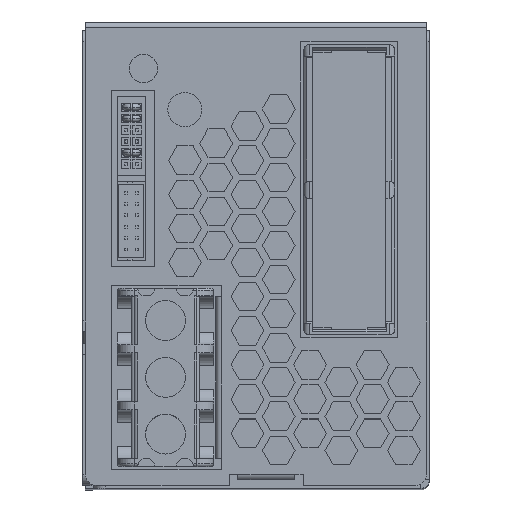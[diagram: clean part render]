
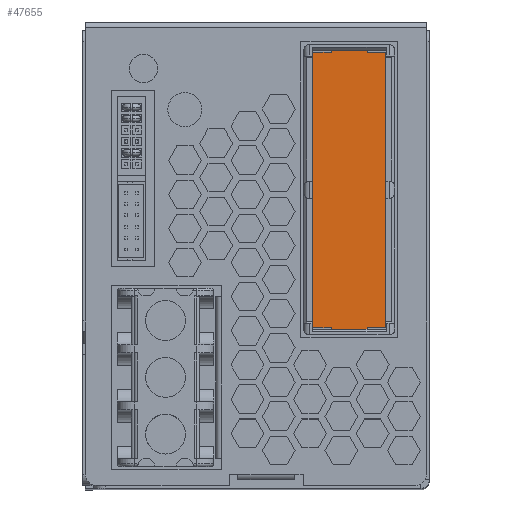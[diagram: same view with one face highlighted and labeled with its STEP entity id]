
A CAD part, top view. The second image highlights one B-rep face of the part: STEP entity #47655.
In plain terms, the highlighted planar face has unit normal (0, 0, 1).
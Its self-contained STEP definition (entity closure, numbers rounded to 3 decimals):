
#767 = DIRECTION ( 'NONE',  ( 1., 0., 0. ) ) ;
#769 = VECTOR ( 'NONE', #767, 1000. ) ;
#771 = CARTESIAN_POINT ( 'NONE',  ( 50.1, 26.953, 19. ) ) ;
#773 = LINE ( 'NONE', #771, #769 ) ;
#840 = DIRECTION ( 'NONE',  ( 1., 0., 0. ) ) ;
#842 = VECTOR ( 'NONE', #840, 1000. ) ;
#844 = CARTESIAN_POINT ( 'NONE',  ( 43.7, 28.253, 19. ) ) ;
#846 = LINE ( 'NONE', #844, #842 ) ;
#854 = CARTESIAN_POINT ( 'NONE',  ( 43.7, 28.253, 19. ) ) ;
#1045 = FACE_OUTER_BOUND ( 'NONE', #47646, .T. ) ;
#1058 = CARTESIAN_POINT ( 'NONE',  ( 43.7, 26.953, 19. ) ) ;
#1117 = DIRECTION ( 'NONE',  ( -1., 0., 0. ) ) ;
#1119 = DIRECTION ( 'NONE',  ( 0., 0., -1. ) ) ;
#1121 = CARTESIAN_POINT ( 'NONE',  ( 50.1, 26.953, 19. ) ) ;
#1123 = AXIS2_PLACEMENT_3D ( 'NONE', #1121, #1119, #1117 ) ;
#1130 = PLANE ( 'NONE',  #1123 ) ;
#1154 = DIRECTION ( 'NONE',  ( 0., -1., 0. ) ) ;
#1155 = VECTOR ( 'NONE', #1154, 1000. ) ;
#1157 = CARTESIAN_POINT ( 'NONE',  ( 43.7, 26.953, 19. ) ) ;
#1159 = LINE ( 'NONE', #1157, #1155 ) ;
#6792 = CARTESIAN_POINT ( 'NONE',  ( 50.1, 26.953, 19. ) ) ;
#6793 = DIRECTION ( 'NONE',  ( 0., 1., 0. ) ) ;
#6794 = VECTOR ( 'NONE', #6793, 1000. ) ;
#6795 = CARTESIAN_POINT ( 'NONE',  ( 50.1, 28.253, 19. ) ) ;
#6797 = LINE ( 'NONE', #6795, #6794 ) ;
#6810 = CARTESIAN_POINT ( 'NONE',  ( 50.1, 28.253, 19. ) ) ;
#7139 = DIRECTION ( 'NONE',  ( -1., 0., 0. ) ) ;
#7140 = VECTOR ( 'NONE', #7139, 1000. ) ;
#7141 = CARTESIAN_POINT ( 'NONE',  ( 50.1, 76.653, 19. ) ) ;
#7143 = LINE ( 'NONE', #7141, #7140 ) ;
#7150 = CARTESIAN_POINT ( 'NONE',  ( 50.1, 76.653, 19. ) ) ;
#7200 = DIRECTION ( 'NONE',  ( 1., 0., 0. ) ) ;
#7201 = VECTOR ( 'NONE', #7200, 1000. ) ;
#7203 = CARTESIAN_POINT ( 'NONE',  ( 50.1, 28.253, 19. ) ) ;
#7204 = LINE ( 'NONE', #7203, #7201 ) ;
#7212 = CARTESIAN_POINT ( 'NONE',  ( 53.3, 28.253, 19. ) ) ;
#7246 = DIRECTION ( 'NONE',  ( 0., 1., 0. ) ) ;
#7247 = VECTOR ( 'NONE', #7246, 1000. ) ;
#7248 = CARTESIAN_POINT ( 'NONE',  ( 53.3, 28.253, 19. ) ) ;
#7249 = LINE ( 'NONE', #7248, #7247 ) ;
#7252 = CARTESIAN_POINT ( 'NONE',  ( 53.3, 76.653, 19. ) ) ;
#7443 = DIRECTION ( 'NONE',  ( 0., -1., 0. ) ) ;
#7444 = VECTOR ( 'NONE', #7443, 1000. ) ;
#7445 = CARTESIAN_POINT ( 'NONE',  ( 43.7, 76.653, 19. ) ) ;
#7446 = LINE ( 'NONE', #7445, #7444 ) ;
#7469 = DIRECTION ( 'NONE',  ( -1., 0., 0. ) ) ;
#7470 = VECTOR ( 'NONE', #7469, 1000. ) ;
#7471 = CARTESIAN_POINT ( 'NONE',  ( 43.7, 77.953, 19. ) ) ;
#7472 = LINE ( 'NONE', #7471, #7470 ) ;
#7475 = CARTESIAN_POINT ( 'NONE',  ( 43.7, 77.953, 19. ) ) ;
#7487 = DIRECTION ( 'NONE',  ( -1., 0., 0. ) ) ;
#7489 = VECTOR ( 'NONE', #7487, 1000. ) ;
#7491 = CARTESIAN_POINT ( 'NONE',  ( 40.5, 76.653, 19. ) ) ;
#7493 = LINE ( 'NONE', #7491, #7489 ) ;
#7499 = CARTESIAN_POINT ( 'NONE',  ( 40.5, 76.653, 19. ) ) ;
#7523 = CARTESIAN_POINT ( 'NONE',  ( 43.7, 76.653, 19. ) ) ;
#7601 = DIRECTION ( 'NONE',  ( 0., 1., 0. ) ) ;
#7603 = VECTOR ( 'NONE', #7601, 1000. ) ;
#7604 = CARTESIAN_POINT ( 'NONE',  ( 50.1, 77.953, 19. ) ) ;
#7606 = LINE ( 'NONE', #7604, #7603 ) ;
#7612 = CARTESIAN_POINT ( 'NONE',  ( 50.1, 77.953, 19. ) ) ;
#7888 = DIRECTION ( 'NONE',  ( 0., -1., 0. ) ) ;
#7890 = VECTOR ( 'NONE', #7888, 1000. ) ;
#7891 = CARTESIAN_POINT ( 'NONE',  ( 40.5, 28.253, 19. ) ) ;
#7892 = LINE ( 'NONE', #7891, #7890 ) ;
#7894 = CARTESIAN_POINT ( 'NONE',  ( 40.5, 28.253, 19. ) ) ;
#47523 = ORIENTED_EDGE ( 'NONE', *, *, #47579, .T. ) ;
#47563 = ORIENTED_EDGE ( 'NONE', *, *, #49006, .T. ) ;
#47566 = EDGE_CURVE ( 'NONE', #47648, #49007, #773, .T. ) ;
#47573 = ORIENTED_EDGE ( 'NONE', *, *, #49119, .T. ) ;
#47576 = VERTEX_POINT ( 'NONE', #854 ) ;
#47579 = EDGE_CURVE ( 'NONE', #49160, #47576, #846, .T. ) ;
#47612 = ORIENTED_EDGE ( 'NONE', *, *, #49162, .T. ) ;
#47617 = ORIENTED_EDGE ( 'NONE', *, *, #49084, .T. ) ;
#47637 = ORIENTED_EDGE ( 'NONE', *, *, #49101, .T. ) ;
#47643 = ORIENTED_EDGE ( 'NONE', *, *, #49074, .T. ) ;
#47644 = ORIENTED_EDGE ( 'NONE', *, *, #49057, .T. ) ;
#47646 = EDGE_LOOP ( 'NONE', ( #47563, #47728, #47643, #47644, #47573, #47637, #47617, #47662, #47612, #47523, #47818, #47819 ) ) ;
#47648 = VERTEX_POINT ( 'NONE', #1058 ) ;
#47655 = ADVANCED_FACE ( 'NONE', ( #1045 ), #1130, .F. ) ;
#47662 = ORIENTED_EDGE ( 'NONE', *, *, #49095, .T. ) ;
#47678 = EDGE_CURVE ( 'NONE', #47576, #47648, #1159, .T. ) ;
#47728 = ORIENTED_EDGE ( 'NONE', *, *, #49063, .T. ) ;
#47818 = ORIENTED_EDGE ( 'NONE', *, *, #47678, .T. ) ;
#47819 = ORIENTED_EDGE ( 'NONE', *, *, #47566, .T. ) ;
#49002 = VERTEX_POINT ( 'NONE', #6810 ) ;
#49006 = EDGE_CURVE ( 'NONE', #49007, #49002, #6797, .T. ) ;
#49007 = VERTEX_POINT ( 'NONE', #6792 ) ;
#49055 = VERTEX_POINT ( 'NONE', #7150 ) ;
#49057 = EDGE_CURVE ( 'NONE', #49072, #49055, #7143, .T. ) ;
#49061 = VERTEX_POINT ( 'NONE', #7212 ) ;
#49063 = EDGE_CURVE ( 'NONE', #49002, #49061, #7204, .T. ) ;
#49072 = VERTEX_POINT ( 'NONE', #7252 ) ;
#49074 = EDGE_CURVE ( 'NONE', #49061, #49072, #7249, .T. ) ;
#49084 = EDGE_CURVE ( 'NONE', #49099, #49110, #7446, .T. ) ;
#49093 = VERTEX_POINT ( 'NONE', #7499 ) ;
#49095 = EDGE_CURVE ( 'NONE', #49110, #49093, #7493, .T. ) ;
#49099 = VERTEX_POINT ( 'NONE', #7475 ) ;
#49101 = EDGE_CURVE ( 'NONE', #49117, #49099, #7472, .T. ) ;
#49110 = VERTEX_POINT ( 'NONE', #7523 ) ;
#49117 = VERTEX_POINT ( 'NONE', #7612 ) ;
#49119 = EDGE_CURVE ( 'NONE', #49055, #49117, #7606, .T. ) ;
#49160 = VERTEX_POINT ( 'NONE', #7894 ) ;
#49162 = EDGE_CURVE ( 'NONE', #49093, #49160, #7892, .T. ) ;
